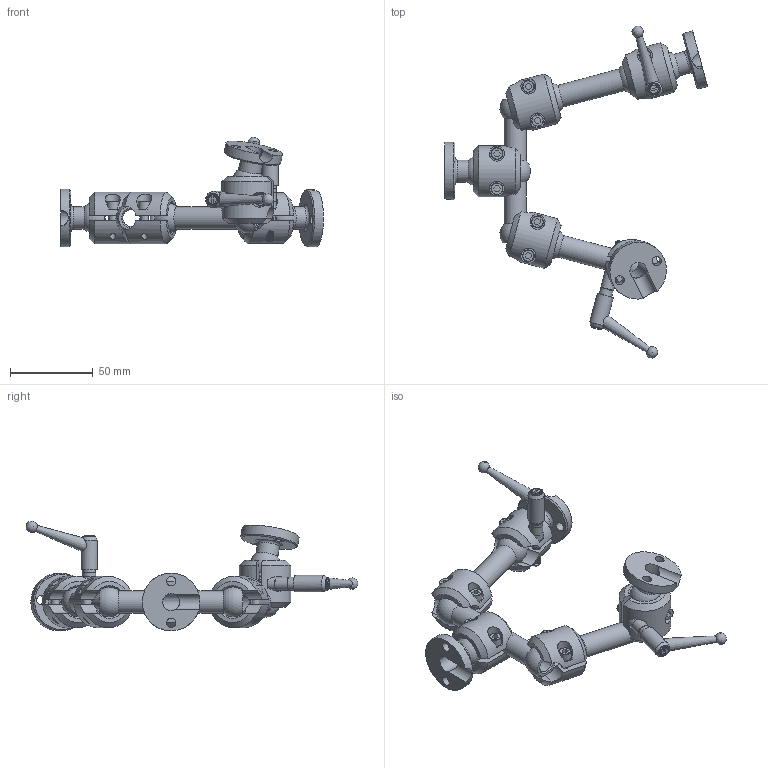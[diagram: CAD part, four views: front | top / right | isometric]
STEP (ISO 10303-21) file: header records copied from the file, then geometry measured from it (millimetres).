
FILE_DESCRIPTION( ( 'Unknown' ), '1' );
FILE_NAME( 'S:/A & P Tool/Start Button Swivel Mount/STP - IGES master files/AFSB-1102XS.stp', 'Unknown', ( 'Unknown' ), ( 'Unknown' ), 'PSStep 17.0.49', 'Unknown', ' ' );
FILE_SCHEMA( ( 'AUTOMOTIVE_DESIGN { 1 0 10303 214 1 1 1 1 }' ) );
Length unit declared in the file: millimetre
Products named in the file (10): AFSB-2XS90 Knuckle Assembly; SHCS-10 -24 x .5; AFSB2-XS90 Extended Range Knuckle; Assem1; AFSB1-XS Small Ball Base; AFSB-3XST Tee Link; AFSB-3-2-XS Ball End 2 inch; #362; 10-24 x 1.188 stud Clamp Handle (6271K18)
Assembly tree (19 placements, depth 3):
  Assem1
    AFSB1-XS Small Ball Base  x3
    AFSB-3XST Tee Link
    AFSB-3-2-XS Ball End 2 inch  x2
    #362  x2
    10-24 x 1.188 stud Clamp Handle (6271K18)  x2
    AFSB-2XS90 Knuckle Assembly  x5
      SHCS-10 -24 x .5
      AFSB2-XS90 Extended Range Knuckle
      AFSB2-XS90 Extended Range Knuckle
Bounding box: 159.33 x 201.08 x 66.44 mm (x, y, z)
Volume: 107621.5 mm3; surface area: 67261.1 mm2
Topology: 30 solids, 30 shells, 477 faces, 1544 edges, 1163 vertices
Faces by surface type: plane 209, cylinder 132, cone 90, sphere 32, torus 10, bspline 4
Full cylindrical faces by diameter (mm): 3.68 x10, 4.826 x10, 4.877 x2, 5.613 x16, 5.974 x2, 6.177 x2, 7.239 x10, 7.722 x2, 7.938 x2, 10.038 x2, 10.312 x1, 10.319 x6, 13.494 x7, 34.925 x3
Entity records: 10358 total; most frequent: CARTESIAN_POINT 5743, ORIENTED_EDGE 866, DIRECTION 560, EDGE_CURVE 433, VERTEX_POINT 386, AXIS2_PLACEMENT_3D 253, EDGE_LOOP 197, FACE_OUTER_BOUND 150
